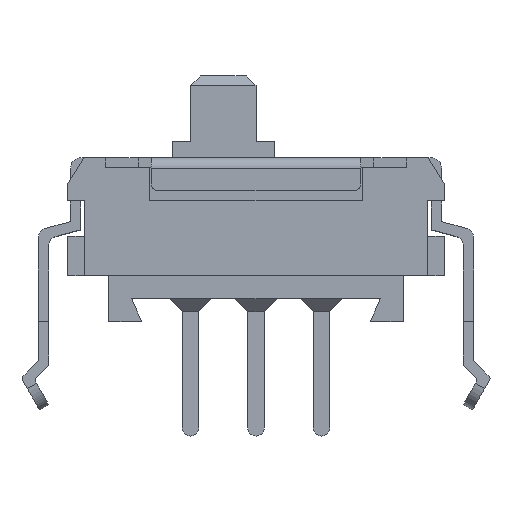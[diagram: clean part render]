
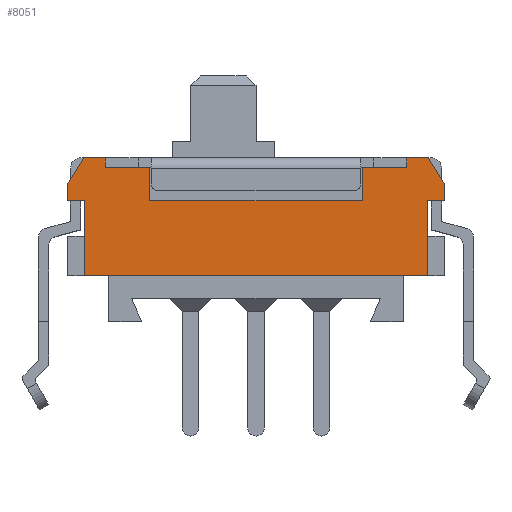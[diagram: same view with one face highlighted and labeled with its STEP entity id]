
A CAD part, top view. The second image highlights one B-rep face of the part: STEP entity #8051.
In plain terms, the highlighted planar face has unit normal (0, 0, 1).
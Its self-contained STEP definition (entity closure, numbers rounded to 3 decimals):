
#1002 = DIRECTION ( 'NONE',  ( 1., 0., 0. ) ) ;
#1003 = VECTOR ( 'NONE', #1002, 1000. ) ;
#1004 = CARTESIAN_POINT ( 'NONE',  ( 3.25, 3.68, 2.35 ) ) ;
#1005 = LINE ( 'NONE', #1004, #1003 ) ;
#1226 = CARTESIAN_POINT ( 'NONE',  ( -3.25, 3.68, 2.35 ) ) ;
#1349 = CARTESIAN_POINT ( 'NONE',  ( 3.25, 3.68, 2.35 ) ) ;
#2626 = CARTESIAN_POINT ( 'NONE',  ( -5.25, 3.7, 2.35 ) ) ;
#2647 = DIRECTION ( 'NONE',  ( 0., -1., 0. ) ) ;
#2648 = VECTOR ( 'NONE', #2647, 1000. ) ;
#2649 = CARTESIAN_POINT ( 'NONE',  ( -5.25, 1.4, 2.35 ) ) ;
#2650 = LINE ( 'NONE', #2649, #2648 ) ;
#2677 = CARTESIAN_POINT ( 'NONE',  ( -5.25, 1.4, 2.35 ) ) ;
#2740 = DIRECTION ( 'NONE',  ( 1., 0., 0. ) ) ;
#2741 = VECTOR ( 'NONE', #2740, 1000. ) ;
#2742 = CARTESIAN_POINT ( 'NONE',  ( -5.75, 1.4, 2.35 ) ) ;
#2743 = LINE ( 'NONE', #2742, #2741 ) ;
#2744 = CARTESIAN_POINT ( 'NONE',  ( 5.25, 1.4, 2.35 ) ) ;
#2869 = VECTOR ( 'NONE', #2921, 1000. ) ;
#2870 = CARTESIAN_POINT ( 'NONE',  ( 5.25, 1.4, 2.35 ) ) ;
#2871 = LINE ( 'NONE', #2870, #2869 ) ;
#2891 = DIRECTION ( 'NONE',  ( -1., 0., 0. ) ) ;
#2892 = VECTOR ( 'NONE', #2891, 1000. ) ;
#2893 = CARTESIAN_POINT ( 'NONE',  ( -5.75, 4.7, 2.35 ) ) ;
#2894 = LINE ( 'NONE', #2893, #2892 ) ;
#2911 = CARTESIAN_POINT ( 'NONE',  ( 5.25, 3.7, 2.35 ) ) ;
#2921 = DIRECTION ( 'NONE',  ( 0., 1., 0. ) ) ;
#2922 = DIRECTION ( 'NONE',  ( -1., 0., 0. ) ) ;
#2923 = VECTOR ( 'NONE', #2922, 1000. ) ;
#2924 = CARTESIAN_POINT ( 'NONE',  ( -5.75, 5., 2.35 ) ) ;
#2925 = LINE ( 'NONE', #2924, #2923 ) ;
#2926 = DIRECTION ( 'NONE',  ( -1., 0., 0. ) ) ;
#2927 = VECTOR ( 'NONE', #2926, 1000. ) ;
#2928 = CARTESIAN_POINT ( 'NONE',  ( -4.6, 3.7, 2.35 ) ) ;
#2929 = LINE ( 'NONE', #2928, #2927 ) ;
#2930 = CARTESIAN_POINT ( 'NONE',  ( 5.75, 3.7, 2.35 ) ) ;
#2931 = DIRECTION ( 'NONE',  ( 1., 0., 0. ) ) ;
#2932 = VECTOR ( 'NONE', #2931, 1000. ) ;
#2933 = CARTESIAN_POINT ( 'NONE',  ( 4.6, 3.7, 2.35 ) ) ;
#2934 = LINE ( 'NONE', #2933, #2932 ) ;
#2935 = DIRECTION ( 'NONE',  ( -0.53, -0.848, 0. ) ) ;
#2936 = VECTOR ( 'NONE', #2935, 1000. ) ;
#2937 = CARTESIAN_POINT ( 'NONE',  ( -5.25, 5., 2.35 ) ) ;
#2938 = LINE ( 'NONE', #2937, #2936 ) ;
#2939 = CARTESIAN_POINT ( 'NONE',  ( -5.25, 5., 2.35 ) ) ;
#2940 = CARTESIAN_POINT ( 'NONE',  ( -5.75, 4.2, 2.35 ) ) ;
#2941 = CARTESIAN_POINT ( 'NONE',  ( -5.75, 3.7, 2.35 ) ) ;
#2942 = DIRECTION ( 'NONE',  ( 0., -1., 0. ) ) ;
#2943 = VECTOR ( 'NONE', #2942, 1000. ) ;
#2944 = CARTESIAN_POINT ( 'NONE',  ( -5.75, 1.4, 2.35 ) ) ;
#2945 = LINE ( 'NONE', #2944, #2943 ) ;
#2946 = DIRECTION ( 'NONE',  ( -1., 0., 0. ) ) ;
#2947 = VECTOR ( 'NONE', #2946, 1000. ) ;
#2948 = CARTESIAN_POINT ( 'NONE',  ( -5.75, 5., 2.35 ) ) ;
#2949 = LINE ( 'NONE', #2948, #2947 ) ;
#2950 = DIRECTION ( 'NONE',  ( -0.53, 0.848, 0. ) ) ;
#2951 = VECTOR ( 'NONE', #2950, 1000. ) ;
#2952 = CARTESIAN_POINT ( 'NONE',  ( 5.75, 4.2, 2.35 ) ) ;
#2953 = LINE ( 'NONE', #2952, #2951 ) ;
#2967 = FACE_OUTER_BOUND ( 'NONE', #8052, .T. ) ;
#2968 = DIRECTION ( 'NONE',  ( 0., 1., 0. ) ) ;
#2969 = VECTOR ( 'NONE', #2968, 1000. ) ;
#2970 = CARTESIAN_POINT ( 'NONE',  ( -3.25, 1.4, 2.35 ) ) ;
#2971 = LINE ( 'NONE', #2970, #2969 ) ;
#2973 = DIRECTION ( 'NONE',  ( 0., 1., 0. ) ) ;
#2974 = VECTOR ( 'NONE', #2973, 1000. ) ;
#2975 = CARTESIAN_POINT ( 'NONE',  ( -4.6, 1.4, 2.35 ) ) ;
#2976 = LINE ( 'NONE', #2975, #2974 ) ;
#2977 = CARTESIAN_POINT ( 'NONE',  ( -4.6, 5., 2.35 ) ) ;
#2978 = DIRECTION ( 'NONE',  ( -1., 0., 0. ) ) ;
#2979 = VECTOR ( 'NONE', #2978, 1000. ) ;
#2980 = CARTESIAN_POINT ( 'NONE',  ( -5.75, 4.7, 2.35 ) ) ;
#2981 = LINE ( 'NONE', #2980, #2979 ) ;
#2982 = CARTESIAN_POINT ( 'NONE',  ( -4.6, 4.7, 2.35 ) ) ;
#2983 = CARTESIAN_POINT ( 'NONE',  ( -3.25, 4.7, 2.35 ) ) ;
#3002 = CARTESIAN_POINT ( 'NONE',  ( 3.25, 4.7, 2.35 ) ) ;
#3003 = DIRECTION ( 'NONE',  ( 0., -1., 0. ) ) ;
#3004 = VECTOR ( 'NONE', #3003, 1000. ) ;
#3005 = CARTESIAN_POINT ( 'NONE',  ( 3.25, 1.4, 2.35 ) ) ;
#3006 = LINE ( 'NONE', #3005, #3004 ) ;
#3007 = DIRECTION ( 'NONE',  ( 1., 0., 0. ) ) ;
#3008 = DIRECTION ( 'NONE',  ( 0., 0., 1. ) ) ;
#3009 = CARTESIAN_POINT ( 'NONE',  ( -5.75, 1.4, 2.35 ) ) ;
#3010 = AXIS2_PLACEMENT_3D ( 'NONE', #3009, #3008, #3007 ) ;
#3011 = PLANE ( 'NONE',  #3010 ) ;
#3082 = DIRECTION ( 'NONE',  ( 0., -1., 0. ) ) ;
#3083 = VECTOR ( 'NONE', #3082, 1000. ) ;
#3084 = CARTESIAN_POINT ( 'NONE',  ( 4.6, 1.4, 2.35 ) ) ;
#3085 = LINE ( 'NONE', #3084, #3083 ) ;
#3087 = CARTESIAN_POINT ( 'NONE',  ( 4.6, 5., 2.35 ) ) ;
#3108 = CARTESIAN_POINT ( 'NONE',  ( 5.25, 5., 2.35 ) ) ;
#3109 = CARTESIAN_POINT ( 'NONE',  ( 4.6, 4.7, 2.35 ) ) ;
#3110 = CARTESIAN_POINT ( 'NONE',  ( 5.75, 4.2, 2.35 ) ) ;
#3111 = DIRECTION ( 'NONE',  ( 0., 1., 0. ) ) ;
#3112 = VECTOR ( 'NONE', #3111, 1000. ) ;
#3113 = CARTESIAN_POINT ( 'NONE',  ( 5.75, 1.4, 2.35 ) ) ;
#3114 = LINE ( 'NONE', #3113, #3112 ) ;
#7342 = EDGE_CURVE ( 'NONE', #7422, #7468, #1005, .T. ) ;
#7422 = VERTEX_POINT ( 'NONE', #1226 ) ;
#7468 = VERTEX_POINT ( 'NONE', #1349 ) ;
#7820 = ORIENTED_EDGE ( 'NONE', *, *, #8100, .T. ) ;
#7893 = EDGE_CURVE ( 'NONE', #7906, #7913, #2650, .T. ) ;
#7906 = VERTEX_POINT ( 'NONE', #2626 ) ;
#7913 = VERTEX_POINT ( 'NONE', #2677 ) ;
#7936 = VERTEX_POINT ( 'NONE', #2744 ) ;
#7939 = EDGE_CURVE ( 'NONE', #7913, #7936, #2743, .T. ) ;
#7999 = EDGE_CURVE ( 'NONE', #7936, #8004, #2871, .T. ) ;
#8004 = VERTEX_POINT ( 'NONE', #2911 ) ;
#8019 = ORIENTED_EDGE ( 'NONE', *, *, #8021, .T. ) ;
#8020 = ORIENTED_EDGE ( 'NONE', *, *, #8023, .T. ) ;
#8021 = EDGE_CURVE ( 'NONE', #8102, #8056, #2894, .T. ) ;
#8023 = EDGE_CURVE ( 'NONE', #8101, #8103, #2953, .T. ) ;
#8024 = EDGE_CURVE ( 'NONE', #8103, #8096, #2949, .T. ) ;
#8025 = ORIENTED_EDGE ( 'NONE', *, *, #8041, .T. ) ;
#8026 = EDGE_CURVE ( 'NONE', #8030, #8028, #2945, .T. ) ;
#8027 = ORIENTED_EDGE ( 'NONE', *, *, #7939, .T. ) ;
#8028 = VERTEX_POINT ( 'NONE', #2941 ) ;
#8029 = ORIENTED_EDGE ( 'NONE', *, *, #8026, .T. ) ;
#8030 = VERTEX_POINT ( 'NONE', #2940 ) ;
#8031 = VERTEX_POINT ( 'NONE', #2939 ) ;
#8032 = ORIENTED_EDGE ( 'NONE', *, *, #8034, .T. ) ;
#8033 = ORIENTED_EDGE ( 'NONE', *, *, #8039, .F. ) ;
#8034 = EDGE_CURVE ( 'NONE', #8031, #8030, #2938, .T. ) ;
#8035 = ORIENTED_EDGE ( 'NONE', *, *, #7999, .T. ) ;
#8036 = ORIENTED_EDGE ( 'NONE', *, *, #8037, .T. ) ;
#8037 = EDGE_CURVE ( 'NONE', #8004, #8038, #2934, .T. ) ;
#8038 = VERTEX_POINT ( 'NONE', #2930 ) ;
#8039 = EDGE_CURVE ( 'NONE', #7906, #8028, #2929, .T. ) ;
#8040 = ORIENTED_EDGE ( 'NONE', *, *, #7893, .T. ) ;
#8041 = EDGE_CURVE ( 'NONE', #8047, #8031, #2925, .T. ) ;
#8042 = VERTEX_POINT ( 'NONE', #2983 ) ;
#8043 = ORIENTED_EDGE ( 'NONE', *, *, #8046, .T. ) ;
#8044 = ORIENTED_EDGE ( 'NONE', *, *, #8050, .T. ) ;
#8045 = VERTEX_POINT ( 'NONE', #2982 ) ;
#8046 = EDGE_CURVE ( 'NONE', #8042, #8045, #2981, .T. ) ;
#8047 = VERTEX_POINT ( 'NONE', #2977 ) ;
#8048 = ORIENTED_EDGE ( 'NONE', *, *, #8049, .T. ) ;
#8049 = EDGE_CURVE ( 'NONE', #8045, #8047, #2976, .T. ) ;
#8050 = EDGE_CURVE ( 'NONE', #7422, #8042, #2971, .T. ) ;
#8051 = ADVANCED_FACE ( 'NONE', ( #2967 ), #3011, .T. ) ;
#8052 = EDGE_LOOP ( 'NONE', ( #8053, #8055, #8044, #8043, #8048, #8025, #8032, #8029, #8033, #8040, #8027, #8035, #8036, #7820, #8020, #8094, #8095, #8019 ) ) ;
#8053 = ORIENTED_EDGE ( 'NONE', *, *, #8054, .T. ) ;
#8054 = EDGE_CURVE ( 'NONE', #8056, #7468, #3006, .T. ) ;
#8055 = ORIENTED_EDGE ( 'NONE', *, *, #7342, .F. ) ;
#8056 = VERTEX_POINT ( 'NONE', #3002 ) ;
#8094 = ORIENTED_EDGE ( 'NONE', *, *, #8024, .T. ) ;
#8095 = ORIENTED_EDGE ( 'NONE', *, *, #8097, .T. ) ;
#8096 = VERTEX_POINT ( 'NONE', #3087 ) ;
#8097 = EDGE_CURVE ( 'NONE', #8096, #8102, #3085, .T. ) ;
#8100 = EDGE_CURVE ( 'NONE', #8038, #8101, #3114, .T. ) ;
#8101 = VERTEX_POINT ( 'NONE', #3110 ) ;
#8102 = VERTEX_POINT ( 'NONE', #3109 ) ;
#8103 = VERTEX_POINT ( 'NONE', #3108 ) ;
